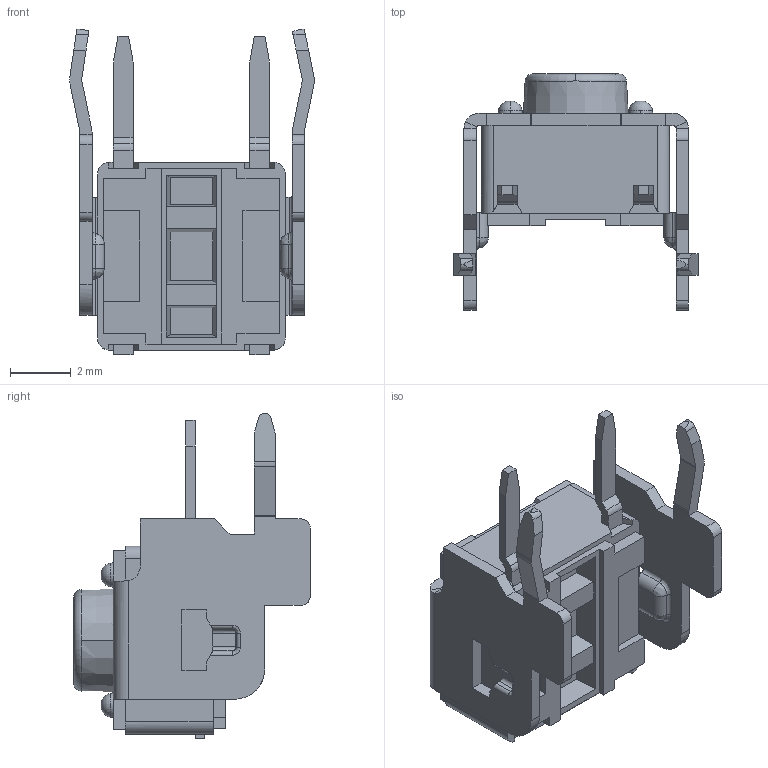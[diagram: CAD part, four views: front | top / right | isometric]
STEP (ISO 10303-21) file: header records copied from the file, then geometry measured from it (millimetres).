
FILE_DESCRIPTION (( 'STEP AP203' ), '1' );
FILE_NAME ('111.STEP', '2014-05-29T08:35:45', ( 'Dip' ), ( '' ), 'SwSTEP 2.0', 'SolidWorks 2008', '' );
FILE_SCHEMA (( 'CONFIG_CONTROL_DESIGN' ));
Length unit declared in the file: millimetre
Products named in the file (1): 111
Bounding box: 8.08 x 7.8 x 10.73 mm (x, y, z)
Volume: 139.6 mm3; surface area: 489.5 mm2
Topology: 1 solids, 1 shells, 379 faces, 1080 edges, 703 vertices
Faces by surface type: plane 239, cylinder 85, bspline 25, torus 16, cone 14
Entity records: 14204 total; most frequent: CARTESIAN_POINT 4802, ORIENTED_EDGE 2144, DIRECTION 1634, EDGE_CURVE 1072, VECTOR 716, LINE 716, VERTEX_POINT 703, AXIS2_PLACEMENT_3D 459
